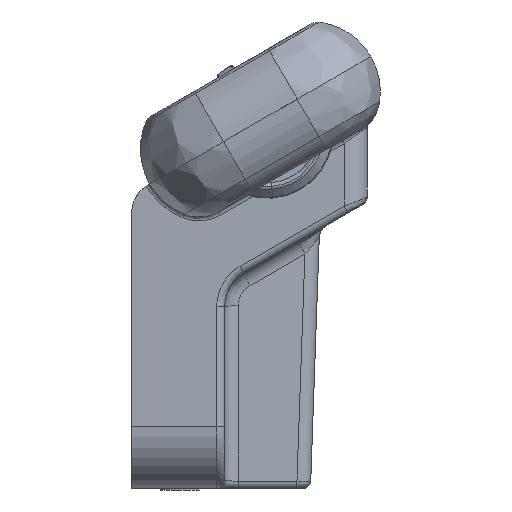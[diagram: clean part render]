
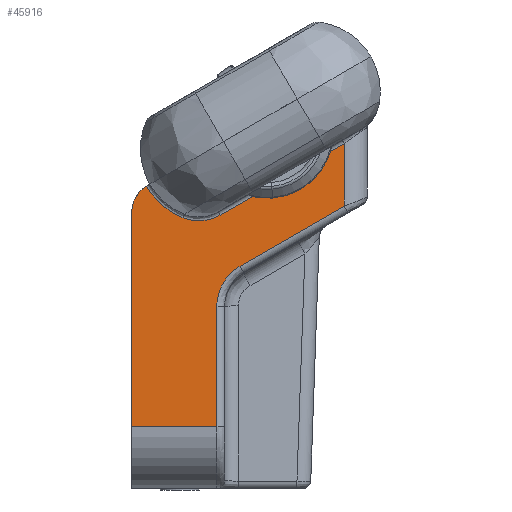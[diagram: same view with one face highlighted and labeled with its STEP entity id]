
A CAD part, left-side view. The second image highlights one B-rep face of the part: STEP entity #45916.
In plain terms, the highlighted planar face has unit normal (-1, 0, 0).
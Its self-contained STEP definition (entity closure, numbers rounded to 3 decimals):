
#1160 = VERTEX_POINT ( 'NONE', #41028 ) ;
#1471 = CARTESIAN_POINT ( 'NONE',  ( -43.4, 13.063, -12.863 ) ) ;
#2986 = CARTESIAN_POINT ( 'NONE',  ( -43.4, 16.682, -12.988 ) ) ;
#4501 = DIRECTION ( 'NONE',  ( 0., 0.866, -0.5 ) ) ;
#5062 = LINE ( 'NONE', #76704, #19078 ) ;
#5754 = DIRECTION ( 'NONE',  ( -1., 0., 0. ) ) ;
#6286 = CARTESIAN_POINT ( 'NONE',  ( -43.4, 20.27, -10.741 ) ) ;
#9593 = CARTESIAN_POINT ( 'NONE',  ( -43.4, 13.304, -12.947 ) ) ;
#10548 = CARTESIAN_POINT ( 'NONE',  ( -43.4, 17.063, -12.837 ) ) ;
#10740 = LINE ( 'NONE', #61229, #79421 ) ;
#11349 = EDGE_CURVE ( 'NONE', #11793, #64987, #72447, .T. ) ;
#11710 = VERTEX_POINT ( 'NONE', #13105 ) ;
#11793 = VERTEX_POINT ( 'NONE', #14574 ) ;
#12644 = CARTESIAN_POINT ( 'NONE',  ( -43.4, 21.797, -8.747 ) ) ;
#12947 = CARTESIAN_POINT ( 'NONE',  ( -43.4, 17.309, -12.739 ) ) ;
#13105 = CARTESIAN_POINT ( 'NONE',  ( -43.4, -3.753, -11.314 ) ) ;
#13242 = CARTESIAN_POINT ( 'NONE',  ( -43.4, 20.723, -10.25 ) ) ;
#14325 = VECTOR ( 'NONE', #36031, 1000. ) ;
#14574 = CARTESIAN_POINT ( 'NONE',  ( -43.4, 9.7, -19.081 ) ) ;
#16555 = CARTESIAN_POINT ( 'NONE',  ( -43.4, 13.803, -13.103 ) ) ;
#19041 = CARTESIAN_POINT ( 'NONE',  ( -43.4, 12.7, 0. ) ) ;
#19078 = VECTOR ( 'NONE', #21818, 1000. ) ;
#19631 = CARTESIAN_POINT ( 'NONE',  ( -43.4, 23.7, -12.153 ) ) ;
#19946 = VECTOR ( 'NONE', #73886, 1000. ) ;
#20140 = CARTESIAN_POINT ( 'NONE',  ( -43.4, 21.232, -9.637 ) ) ;
#21237 = CIRCLE ( 'NONE', #25073, 4. ) ;
#21818 = DIRECTION ( 'NONE',  ( 0., 0.866, -0.5 ) ) ;
#22204 = CARTESIAN_POINT ( 'NONE',  ( -43.4, 12.282, -12.489 ) ) ;
#23338 = ORIENTED_EDGE ( 'NONE', *, *, #51241, .T. ) ;
#23426 = CARTESIAN_POINT ( 'NONE',  ( -43.4, 14.842, -13.227 ) ) ;
#25059 = VECTOR ( 'NONE', #54118, 1000. ) ;
#25068 = CARTESIAN_POINT ( 'NONE',  ( -43.4, 23.7, -39.8 ) ) ;
#25073 = AXIS2_PLACEMENT_3D ( 'NONE', #46925, #5754, #53833 ) ;
#25262 = EDGE_CURVE ( 'NONE', #41031, #72641, #43378, .T. ) ;
#26736 = CARTESIAN_POINT ( 'NONE',  ( -43.4, 17.67, -12.578 ) ) ;
#27029 = DIRECTION ( 'NONE',  ( 0., 0., -1. ) ) ;
#27034 = CARTESIAN_POINT ( 'NONE',  ( -43.4, 21.797, -8.747 ) ) ;
#28473 = CARTESIAN_POINT ( 'NONE',  ( -43.4, 12.7, -22.081 ) ) ;
#28833 = CARTESIAN_POINT ( 'NONE',  ( -43.4, 12.282, -12.489 ) ) ;
#30323 = ORIENTED_EDGE ( 'NONE', *, *, #40140, .T. ) ;
#30350 = CARTESIAN_POINT ( 'NONE',  ( -43.4, 15.521, -13.206 ) ) ;
#30452 = DIRECTION ( 'NONE',  ( -1., 0., 0. ) ) ;
#30596 = EDGE_CURVE ( 'NONE', #11710, #11793, #5062, .T. ) ;
#31537 = ORIENTED_EDGE ( 'NONE', *, *, #79872, .F. ) ;
#32161 = EDGE_CURVE ( 'NONE', #1160, #64987, #74644, .T. ) ;
#33638 = CARTESIAN_POINT ( 'NONE',  ( -43.4, 18.251, -12.268 ) ) ;
#34171 = EDGE_CURVE ( 'NONE', #72641, #1160, #48683, .T. ) ;
#35257 = FACE_OUTER_BOUND ( 'NONE', #60409, .T. ) ;
#35368 = CARTESIAN_POINT ( 'NONE',  ( -43.4, 9.7, -19.081 ) ) ;
#36031 = DIRECTION ( 'NONE',  ( 0., -1., 0. ) ) ;
#36856 = CARTESIAN_POINT ( 'NONE',  ( -43.4, -3.753, -3.231 ) ) ;
#37006 = ORIENTED_EDGE ( 'NONE', *, *, #79735, .T. ) ;
#37237 = CARTESIAN_POINT ( 'NONE',  ( -43.4, 15.781, -13.175 ) ) ;
#39043 = ORIENTED_EDGE ( 'NONE', *, *, #11349, .F. ) ;
#39392 = VERTEX_POINT ( 'NONE', #36856 ) ;
#40085 = VERTEX_POINT ( 'NONE', #12644 ) ;
#40140 = EDGE_CURVE ( 'NONE', #64339, #40085, #58249, .T. ) ;
#40578 = CARTESIAN_POINT ( 'NONE',  ( -43.4, 18.937, -11.856 ) ) ;
#41028 = CARTESIAN_POINT ( 'NONE',  ( -43.4, 12.7, -39.8 ) ) ;
#41031 = VERTEX_POINT ( 'NONE', #19631 ) ;
#42320 = CARTESIAN_POINT ( 'NONE',  ( -43.4, 12.7, -24.277 ) ) ;
#42393 = ORIENTED_EDGE ( 'NONE', *, *, #32161, .T. ) ;
#42676 = CARTESIAN_POINT ( 'NONE',  ( -43.4, 12.732, -12.729 ) ) ;
#42996 = B_SPLINE_CURVE_WITH_KNOTS ( 'NONE', 3,
 ( #28833, #69914, #42676, #1471, #49536, #9593, #57637, #16555, #64524, #23426, #71422, #30350, #78269, #37237, #85136, #44164, #2986, #51058 ),
 .UNSPECIFIED., .F., .F.,
 ( 4, 1, 1, 2, 2, 2, 1, 1, 2, 2, 4 ),
 ( 0., 0.125, 0.187, 0.219, 0.25, 0.5, 0.625, 0.687, 0.719, 0.75, 1. ),
 .UNSPECIFIED. ) ;
#43378 = LINE ( 'NONE', #81009, #25059 ) ;
#44164 = CARTESIAN_POINT ( 'NONE',  ( -43.4, 16.29, -13.096 ) ) ;
#44770 = ORIENTED_EDGE ( 'NONE', *, *, #25262, .T. ) ;
#45916 = ADVANCED_FACE ( 'NONE', ( #35257 ), #64626, .T. ) ;
#46925 = CARTESIAN_POINT ( 'NONE',  ( -43.4, 19.7, -12.153 ) ) ;
#47452 = CARTESIAN_POINT ( 'NONE',  ( -43.4, 19.978, -11.016 ) ) ;
#48683 = LINE ( 'NONE', #84525, #14325 ) ;
#49433 = LINE ( 'NONE', #58566, #51617 ) ;
#49536 = CARTESIAN_POINT ( 'NONE',  ( -43.4, 13.207, -12.914 ) ) ;
#51058 = CARTESIAN_POINT ( 'NONE',  ( -43.4, 17.063, -12.837 ) ) ;
#51241 = EDGE_CURVE ( 'NONE', #78741, #64339, #42996, .T. ) ;
#51617 = VECTOR ( 'NONE', #4501, 1000. ) ;
#53375 = CARTESIAN_POINT ( 'NONE',  ( -43.4, 12.7, -24.277 ) ) ;
#53788 = ORIENTED_EDGE ( 'NONE', *, *, #34171, .T. ) ;
#53833 = DIRECTION ( 'NONE',  ( 0., 0., 1. ) ) ;
#54118 = DIRECTION ( 'NONE',  ( 0., 0., -1. ) ) ;
#54375 = CARTESIAN_POINT ( 'NONE',  ( -43.4, 20.544, -10.449 ) ) ;
#55504 = CARTESIAN_POINT ( 'NONE',  ( -43.4, 11.602, -20.179 ) ) ;
#56245 = ORIENTED_EDGE ( 'NONE', *, *, #73050, .T. ) ;
#57637 = CARTESIAN_POINT ( 'NONE',  ( -43.4, 13.351, -12.963 ) ) ;
#58249 = B_SPLINE_CURVE_WITH_KNOTS ( 'NONE', 3,
 ( #60647, #12947, #26736, #74693, #33638, #81529, #40578, #88457, #47452, #6286, #54375, #13242, #61236, #20140, #68116, #27034 ),
 .UNSPECIFIED., .F., .F.,
 ( 4, 1, 2, 2, 2, 1, 2, 2, 4 ),
 ( 0., 0.125, 0.187, 0.25, 0.5, 0.625, 0.687, 0.75, 1. ),
 .UNSPECIFIED. ) ;
#58566 = CARTESIAN_POINT ( 'NONE',  ( -43.4, -3.753, -3.231 ) ) ;
#60409 = EDGE_LOOP ( 'NONE', ( #37006, #23338, #30323, #56245, #44770, #53788, #42393, #39043, #78469, #31537 ) ) ;
#60647 = CARTESIAN_POINT ( 'NONE',  ( -43.4, 17.063, -12.837 ) ) ;
#61229 = CARTESIAN_POINT ( 'NONE',  ( -43.4, -3.753, -10.737 ) ) ;
#61236 = CARTESIAN_POINT ( 'NONE',  ( -43.4, 20.812, -10.147 ) ) ;
#64339 = VERTEX_POINT ( 'NONE', #10548 ) ;
#64524 = CARTESIAN_POINT ( 'NONE',  ( -43.4, 14.214, -13.181 ) ) ;
#64626 = PLANE ( 'NONE',  #72862 ) ;
#64987 = VERTEX_POINT ( 'NONE', #53375 ) ;
#68116 = CARTESIAN_POINT ( 'NONE',  ( -43.4, 21.532, -9.205 ) ) ;
#69914 = CARTESIAN_POINT ( 'NONE',  ( -43.4, 12.46, -12.591 ) ) ;
#71422 = CARTESIAN_POINT ( 'NONE',  ( -43.4, 15.156, -13.232 ) ) ;
#71526 = CARTESIAN_POINT ( 'NONE',  ( -43.4, 0., 0. ) ) ;
#72447 =( BOUNDED_CURVE ( )  B_SPLINE_CURVE ( 3, ( #35368, #55504, #28473, #42320 ),
 .UNSPECIFIED., .F., .F. ) 
 B_SPLINE_CURVE_WITH_KNOTS ( ( 4, 4 ),
 ( 0., 1. ),
 .UNSPECIFIED. ) 
 CURVE ( )  GEOMETRIC_REPRESENTATION_ITEM ( )  RATIONAL_B_SPLINE_CURVE ( ( 1., 0.911, 0.911, 1. ) ) 
 REPRESENTATION_ITEM ( '' )  );
#72641 = VERTEX_POINT ( 'NONE', #25068 ) ;
#72862 = AXIS2_PLACEMENT_3D ( 'NONE', #71526, #30452, #78379 ) ;
#73050 = EDGE_CURVE ( 'NONE', #40085, #41031, #21237, .T. ) ;
#73886 = DIRECTION ( 'NONE',  ( 0., 0., 1. ) ) ;
#74644 = LINE ( 'NONE', #19041, #19946 ) ;
#74693 = CARTESIAN_POINT ( 'NONE',  ( -43.4, 18.02, -12.395 ) ) ;
#76704 = CARTESIAN_POINT ( 'NONE',  ( -43.4, 12.2, -20.524 ) ) ;
#78269 = CARTESIAN_POINT ( 'NONE',  ( -43.4, 15.677, -13.188 ) ) ;
#78379 = DIRECTION ( 'NONE',  ( 0., 0., 1. ) ) ;
#78469 = ORIENTED_EDGE ( 'NONE', *, *, #30596, .F. ) ;
#78741 = VERTEX_POINT ( 'NONE', #22204 ) ;
#79421 = VECTOR ( 'NONE', #27029, 1000. ) ;
#79735 = EDGE_CURVE ( 'NONE', #39392, #78741, #49433, .T. ) ;
#79872 = EDGE_CURVE ( 'NONE', #39392, #11710, #10740, .T. ) ;
#81009 = CARTESIAN_POINT ( 'NONE',  ( -43.4, 23.7, 0. ) ) ;
#81529 = CARTESIAN_POINT ( 'NONE',  ( -43.4, 18.364, -12.203 ) ) ;
#84525 = CARTESIAN_POINT ( 'NONE',  ( -43.4, 0., -39.8 ) ) ;
#85136 = CARTESIAN_POINT ( 'NONE',  ( -43.4, 15.834, -13.167 ) ) ;
#88457 = CARTESIAN_POINT ( 'NONE',  ( -43.4, 19.37, -11.542 ) ) ;
